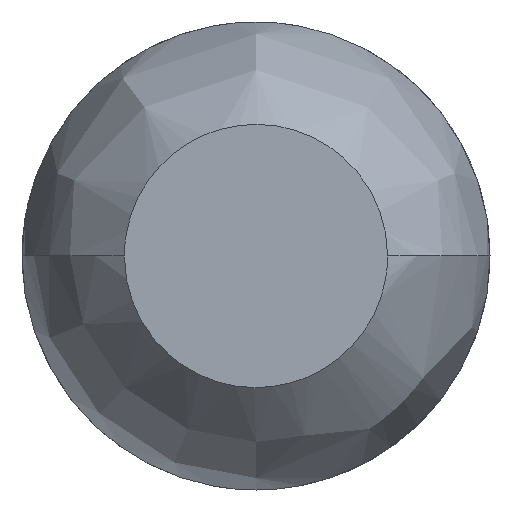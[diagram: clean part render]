
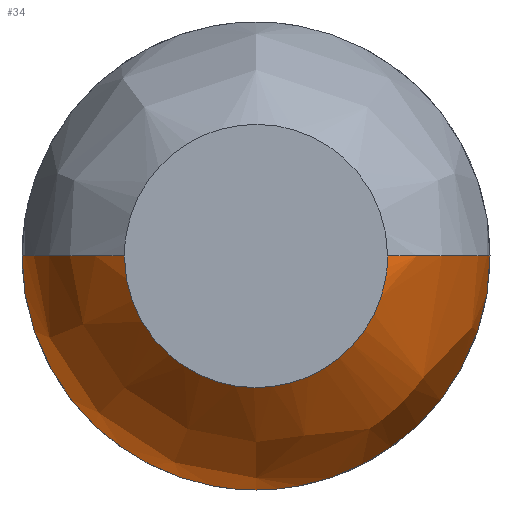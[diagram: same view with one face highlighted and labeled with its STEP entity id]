
A CAD part, left-side view. The second image highlights one B-rep face of the part: STEP entity #34.
In plain terms, the highlighted free-form (B-spline) face has degree [3, 3] with [4, 7] control points.
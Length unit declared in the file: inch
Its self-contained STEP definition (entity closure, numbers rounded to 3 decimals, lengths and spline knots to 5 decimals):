
#2 = CARTESIAN_POINT ( 'NONE',  ( 0.01955, -0.04, -0.02343 ) ) ;
#5 = CARTESIAN_POINT ( 'NONE',  ( 0., 0.01169, -0.02013 ) ) ;
#25 = CARTESIAN_POINT ( 'NONE',  ( 0.03307, -0.04, -0.02343 ) ) ;
#26 = ORIENTED_EDGE ( 'NONE', *, *, #61, .F. ) ;
#27 = CARTESIAN_POINT ( 'NONE',  ( 0.01955, 0.04, 0. ) ) ;
#32 = VERTEX_POINT ( 'NONE', #73 ) ;
#33 = CARTESIAN_POINT ( 'NONE',  ( 0., -0.01169, -0.02013 ) ) ;
#34 = ADVANCED_FACE ( 'NONE', ( #133 ), #169, .F. ) ;
#38 =( BOUNDED_CURVE ( )  B_SPLINE_CURVE ( 3, ( #233, #201, #113, #390 ),
 .UNSPECIFIED., .F., .F. ) 
 B_SPLINE_CURVE_WITH_KNOTS ( ( 4, 4 ),
 ( -1.5708, 0. ),
 .UNSPECIFIED. ) 
 CURVE ( )  GEOMETRIC_REPRESENTATION_ITEM ( )  RATIONAL_B_SPLINE_CURVE ( ( 1., 0.805, 0.805, 1. ) ) 
 REPRESENTATION_ITEM ( '' )  );
#53 = CARTESIAN_POINT ( 'NONE',  ( 0., 0.0225, 0. ) ) ;
#56 = ORIENTED_EDGE ( 'NONE', *, *, #227, .T. ) ;
#57 = CARTESIAN_POINT ( 'NONE',  ( 0.03307, -0.02343, -0.04 ) ) ;
#60 = CARTESIAN_POINT ( 'NONE',  ( 0., -0.0225, 0. ) ) ;
#61 = EDGE_CURVE ( 'NONE', #234, #131, #392, .T. ) ;
#62 = ORIENTED_EDGE ( 'NONE', *, *, #281, .F. ) ;
#65 = CARTESIAN_POINT ( 'NONE',  ( 0.01955, 0., -0.04 ) ) ;
#73 = CARTESIAN_POINT ( 'NONE',  ( 0.03307, -0.04, 0. ) ) ;
#84 = CARTESIAN_POINT ( 'NONE',  ( 0.0076, 0.03368, 0. ) ) ;
#91 = CARTESIAN_POINT ( 'NONE',  ( 0.0076, 0.03368, 0. ) ) ;
#95 = CARTESIAN_POINT ( 'NONE',  ( 0., -0.0225, -0.00597 ) ) ;
#98 = CARTESIAN_POINT ( 'NONE',  ( 0., 0., -0.0225 ) ) ;
#99 = CARTESIAN_POINT ( 'NONE',  ( 0.03307, 0.04, -0.02343 ) ) ;
#113 = CARTESIAN_POINT ( 'NONE',  ( 0.03307, 0.02343, -0.04 ) ) ;
#121 = CARTESIAN_POINT ( 'NONE',  ( 0.0076, -0.01973, -0.03368 ) ) ;
#125 = CARTESIAN_POINT ( 'NONE',  ( 0., -0.01318, -0.0225 ) ) ;
#131 = VERTEX_POINT ( 'NONE', #139 ) ;
#133 = FACE_OUTER_BOUND ( 'NONE', #334, .T. ) ;
#134 = CARTESIAN_POINT ( 'NONE',  ( 0.03307, 0., -0.04 ) ) ;
#139 = CARTESIAN_POINT ( 'NONE',  ( 0., -0.0225, 0. ) ) ;
#143 = CARTESIAN_POINT ( 'NONE',  ( 0.03307, -0.04, 0. ) ) ;
#150 = CARTESIAN_POINT ( 'NONE',  ( 0.03307, -0.04, -0.02343 ) ) ;
#151 = CARTESIAN_POINT ( 'NONE',  ( 0.03307, 0., -0.04 ) ) ;
#153 = CARTESIAN_POINT ( 'NONE',  ( 0.0076, -0.03368, 0. ) ) ;
#154 = ORIENTED_EDGE ( 'NONE', *, *, #358, .F. ) ;
#157 = CARTESIAN_POINT ( 'NONE',  ( 0., 0.0225, -0.00597 ) ) ;
#169 =( BOUNDED_SURFACE ( )  B_SPLINE_SURFACE ( 3, 3, ( 
 ( #382, #99, #246, #134, #57, #150, #374 ),
 ( #27, #381, #251, #65, #180, #2, #399 ),
 ( #91, #349, #315, #344, #121, #403, #153 ),
 ( #240, #271, #377, #98, #125, #220, #60 ) ),
 .UNSPECIFIED., .F., .F., .F. ) 
 B_SPLINE_SURFACE_WITH_KNOTS ( ( 4, 4 ),
 ( 4, 3, 4 ),
 ( 0., 1. ),
 ( 0., 0.5, 1. ),
 .UNSPECIFIED. ) 
 GEOMETRIC_REPRESENTATION_ITEM ( )  RATIONAL_B_SPLINE_SURFACE ( (
 ( 1., 0.805, 0.805, 1., 0.805, 0.805, 1.),
 ( 0.923, 0.742, 0.742, 0.923, 0.742, 0.742, 0.923),
 ( 0.923, 0.742, 0.742, 0.923, 0.742, 0.742, 0.923),
 ( 1., 0.805, 0.805, 1., 0.805, 0.805, 1.) ) ) 
 REPRESENTATION_ITEM ( '' )  SURFACE ( )  );
#170 = CARTESIAN_POINT ( 'NONE',  ( 0.01955, -0.04, 0. ) ) ;
#180 = CARTESIAN_POINT ( 'NONE',  ( 0.01955, -0.02343, -0.04 ) ) ;
#183 = CARTESIAN_POINT ( 'NONE',  ( 0., -0.02013, -0.01169 ) ) ;
#191 =( BOUNDED_CURVE ( )  B_SPLINE_CURVE ( 3, ( #231, #289, #170, #143 ),
 .UNSPECIFIED., .F., .T. ) 
 B_SPLINE_CURVE_WITH_KNOTS ( ( 4, 4 ),
 ( -4.71239, -3.739 ),
 .UNSPECIFIED. ) 
 CURVE ( )  GEOMETRIC_REPRESENTATION_ITEM ( )  RATIONAL_B_SPLINE_CURVE ( ( 1., 0.923, 0.923, 1. ) ) 
 REPRESENTATION_ITEM ( '' )  );
#201 = CARTESIAN_POINT ( 'NONE',  ( 0.03307, 0.04, -0.02343 ) ) ;
#213 = CARTESIAN_POINT ( 'NONE',  ( 0., -0.00597, -0.0225 ) ) ;
#215 = VERTEX_POINT ( 'NONE', #261 ) ;
#220 = CARTESIAN_POINT ( 'NONE',  ( 0., -0.0225, -0.01318 ) ) ;
#227 = EDGE_CURVE ( 'NONE', #215, #273, #38, .T. ) ;
#229 =( BOUNDED_CURVE ( )  B_SPLINE_CURVE ( 3, ( #241, #25, #400, #151 ),
 .UNSPECIFIED., .F., .F. ) 
 B_SPLINE_CURVE_WITH_KNOTS ( ( 4, 4 ),
 ( -1.5708, 0. ),
 .UNSPECIFIED. ) 
 CURVE ( )  GEOMETRIC_REPRESENTATION_ITEM ( )  RATIONAL_B_SPLINE_CURVE ( ( 1., 0.805, 0.805, 1. ) ) 
 REPRESENTATION_ITEM ( '' )  );
#231 = CARTESIAN_POINT ( 'NONE',  ( 0., -0.0225, 0. ) ) ;
#233 = CARTESIAN_POINT ( 'NONE',  ( 0.03307, 0.04, 0. ) ) ;
#234 = VERTEX_POINT ( 'NONE', #330 ) ;
#240 = CARTESIAN_POINT ( 'NONE',  ( 0., 0.0225, 0. ) ) ;
#241 = CARTESIAN_POINT ( 'NONE',  ( 0.03307, -0.04, 0. ) ) ;
#246 = CARTESIAN_POINT ( 'NONE',  ( 0.03307, 0.02343, -0.04 ) ) ;
#251 = CARTESIAN_POINT ( 'NONE',  ( 0.01955, 0.02343, -0.04 ) ) ;
#261 = CARTESIAN_POINT ( 'NONE',  ( 0.03307, 0.04, 0. ) ) ;
#271 = CARTESIAN_POINT ( 'NONE',  ( 0., 0.0225, -0.01318 ) ) ;
#273 = VERTEX_POINT ( 'NONE', #292 ) ;
#274 = CARTESIAN_POINT ( 'NONE',  ( 0., 0.00597, -0.0225 ) ) ;
#280 = CARTESIAN_POINT ( 'NONE',  ( 0., -0.0225, 0. ) ) ;
#281 = EDGE_CURVE ( 'NONE', #131, #32, #191, .T. ) ;
#289 = CARTESIAN_POINT ( 'NONE',  ( 0.0076, -0.03368, 0. ) ) ;
#292 = CARTESIAN_POINT ( 'NONE',  ( 0.03307, 0., -0.04 ) ) ;
#315 = CARTESIAN_POINT ( 'NONE',  ( 0.0076, 0.01973, -0.03368 ) ) ;
#330 = CARTESIAN_POINT ( 'NONE',  ( 0., 0.0225, 0. ) ) ;
#334 = EDGE_LOOP ( 'NONE', ( #62, #26, #154, #56, #347 ) ) ;
#339 = CARTESIAN_POINT ( 'NONE',  ( 0.01955, 0.04, 0. ) ) ;
#344 = CARTESIAN_POINT ( 'NONE',  ( 0.0076, 0., -0.03368 ) ) ;
#347 = ORIENTED_EDGE ( 'NONE', *, *, #372, .F. ) ;
#348 = CARTESIAN_POINT ( 'NONE',  ( 0., 0.02013, -0.01169 ) ) ;
#349 = CARTESIAN_POINT ( 'NONE',  ( 0.0076, 0.03368, -0.01973 ) ) ;
#355 =( BOUNDED_CURVE ( )  B_SPLINE_CURVE ( 3, ( #378, #339, #84, #53 ),
 .UNSPECIFIED., .F., .T. ) 
 B_SPLINE_CURVE_WITH_KNOTS ( ( 4, 4 ),
 ( -2.54419, -1.5708 ),
 .UNSPECIFIED. ) 
 CURVE ( )  GEOMETRIC_REPRESENTATION_ITEM ( )  RATIONAL_B_SPLINE_CURVE ( ( 1., 0.923, 0.923, 1. ) ) 
 REPRESENTATION_ITEM ( '' )  );
#358 = EDGE_CURVE ( 'NONE', #215, #234, #355, .T. ) ;
#371 = CARTESIAN_POINT ( 'NONE',  ( 0., 0.0225, 0. ) ) ;
#372 = EDGE_CURVE ( 'NONE', #32, #273, #229, .T. ) ;
#374 = CARTESIAN_POINT ( 'NONE',  ( 0.03307, -0.04, 0. ) ) ;
#377 = CARTESIAN_POINT ( 'NONE',  ( 0., 0.01318, -0.0225 ) ) ;
#378 = CARTESIAN_POINT ( 'NONE',  ( 0.03307, 0.04, 0. ) ) ;
#381 = CARTESIAN_POINT ( 'NONE',  ( 0.01955, 0.04, -0.02343 ) ) ;
#382 = CARTESIAN_POINT ( 'NONE',  ( 0.03307, 0.04, 0. ) ) ;
#390 = CARTESIAN_POINT ( 'NONE',  ( 0.03307, 0., -0.04 ) ) ;
#392 = B_SPLINE_CURVE_WITH_KNOTS ( 'NONE', 3,
 ( #371, #157, #348, #5, #274, #213, #33, #183, #95, #280 ),
 .UNSPECIFIED., .F., .F.,
 ( 4, 2, 2, 2, 4 ),
 ( 0., 0.7854, 1.5708, 2.35619, 3.14159 ),
 .UNSPECIFIED. ) ;
#399 = CARTESIAN_POINT ( 'NONE',  ( 0.01955, -0.04, 0. ) ) ;
#400 = CARTESIAN_POINT ( 'NONE',  ( 0.03307, -0.02343, -0.04 ) ) ;
#403 = CARTESIAN_POINT ( 'NONE',  ( 0.0076, -0.03368, -0.01973 ) ) ;
